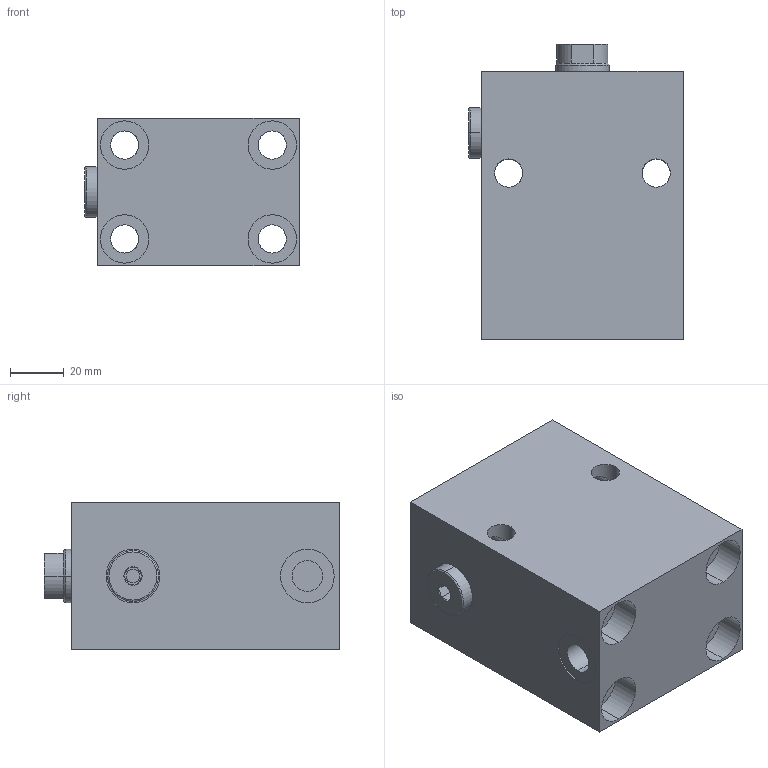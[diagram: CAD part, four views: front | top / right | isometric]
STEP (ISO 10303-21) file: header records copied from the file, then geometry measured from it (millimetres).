
FILE_DESCRIPTION (( 'STEP AP203' ), '1' );
FILE_NAME ('GERMA_Blockzylinder_650-032-020.STEP', '2023-08-26T14:47:18', ( '' ), ( '' ), 'SwSTEP 2.0', 'SolidWorks 2016', '' );
FILE_SCHEMA (( 'CONFIG_CONTROL_DESIGN' ));
Length unit declared in the file: millimetre
Products named in the file (3): GH-600-032-ew_GH-650-032-020; Kolben 60x-032_Kolben DU.32-Hub50-IG; GERMA_Blockzylinder_650-032-020
Assembly tree (2 placements, depth 2):
  GERMA_Blockzylinder_650-032-020
    GH-600-032-ew_GH-650-032-020
    Kolben 60x-032_Kolben DU.32-Hub50-IG
Bounding box: 79.8 x 110 x 55 mm (x, y, z)
Volume: 345204 mm3; surface area: 68512.9 mm2
Topology: 2 solids, 2 shells, 139 faces, 323 edges, 198 vertices
Faces by surface type: cylinder 77, plane 39, cone 21, torus 2
Entity records: 4309 total; most frequent: CARTESIAN_POINT 818, DIRECTION 710, ORIENTED_EDGE 634, EDGE_CURVE 317, AXIS2_PLACEMENT_3D 288, VERTEX_POINT 198, EDGE_LOOP 175, CIRCLE 144
